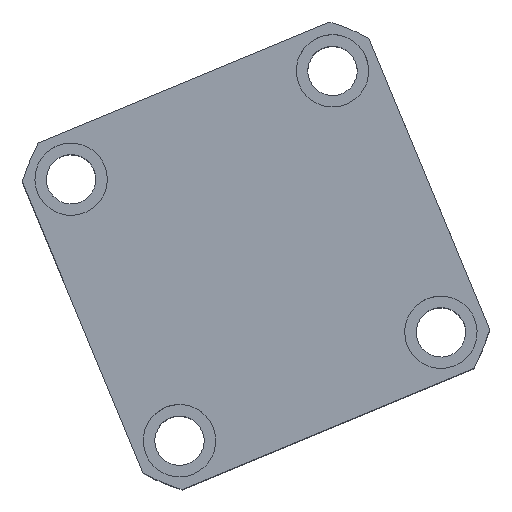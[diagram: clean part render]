
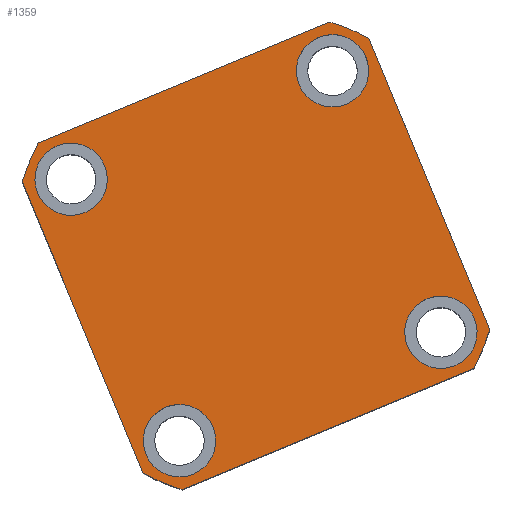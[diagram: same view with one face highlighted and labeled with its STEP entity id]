
A CAD part, top view. The second image highlights one B-rep face of the part: STEP entity #1359.
In plain terms, the highlighted planar face has unit normal (0, 0, 1) as drawn and (0, 0, -1) by its records, which use the part's own axes.
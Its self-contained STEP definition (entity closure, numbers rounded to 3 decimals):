
#66 = EDGE_LOOP ( 'NONE', ( #14308, #10297 ) ) ;
#147 = EDGE_CURVE ( 'NONE', #11695, #14682, #1097, .T. ) ;
#209 = DIRECTION ( 'NONE',  ( 1., 0., 0. ) ) ;
#306 = ORIENTED_EDGE ( 'NONE', *, *, #11816, .F. ) ;
#563 = LINE ( 'NONE', #4039, #9632 ) ;
#617 = CARTESIAN_POINT ( 'NONE',  ( 32., -43., 0. ) ) ;
#931 = VECTOR ( 'NONE', #14035, 1000. ) ;
#948 = CIRCLE ( 'NONE', #7514, 74.5 ) ;
#1097 = CIRCLE ( 'NONE', #1979, 74.5 ) ;
#1124 = CARTESIAN_POINT ( 'NONE',  ( -57., -57., 0. ) ) ;
#1359 = ADVANCED_FACE ( 'NONE', ( #1820, #8116, #10880, #7721, #4633 ), #10993, .F. ) ;
#1417 = ORIENTED_EDGE ( 'NONE', *, *, #1635, .F. ) ;
#1493 = CIRCLE ( 'NONE', #10747, 11. ) ;
#1582 = CARTESIAN_POINT ( 'NONE',  ( 47.971, -57., 0. ) ) ;
#1596 = VERTEX_POINT ( 'NONE', #13472 ) ;
#1635 = EDGE_CURVE ( 'NONE', #10379, #11695, #3517, .T. ) ;
#1701 = CARTESIAN_POINT ( 'NONE',  ( 0., 0., 0. ) ) ;
#1820 = FACE_BOUND ( 'NONE', #8205, .T. ) ;
#1885 = CIRCLE ( 'NONE', #6851, 74.5 ) ;
#1979 = AXIS2_PLACEMENT_3D ( 'NONE', #6146, #6481, #2784 ) ;
#2369 = DIRECTION ( 'NONE',  ( 1., 0., 0. ) ) ;
#2448 = EDGE_CURVE ( 'NONE', #3723, #6921, #3326, .T. ) ;
#2494 = CARTESIAN_POINT ( 'NONE',  ( -32., -43., 0. ) ) ;
#2584 = EDGE_CURVE ( 'NONE', #11939, #13943, #9567, .T. ) ;
#2617 = VERTEX_POINT ( 'NONE', #4231 ) ;
#2772 = CARTESIAN_POINT ( 'NONE',  ( -57., 47.971, 0. ) ) ;
#2784 = DIRECTION ( 'NONE',  ( 1., 0., 0. ) ) ;
#2863 = EDGE_CURVE ( 'NONE', #10423, #10379, #948, .T. ) ;
#2893 = DIRECTION ( 'NONE',  ( 1., 0., 0. ) ) ;
#3182 = DIRECTION ( 'NONE',  ( 0., 0., -1. ) ) ;
#3220 = CARTESIAN_POINT ( 'NONE',  ( 57., 47.971, 0. ) ) ;
#3268 = CARTESIAN_POINT ( 'NONE',  ( 43., -43., 0. ) ) ;
#3326 = CIRCLE ( 'NONE', #3426, 11. ) ;
#3426 = AXIS2_PLACEMENT_3D ( 'NONE', #11212, #11160, #11113 ) ;
#3497 = ORIENTED_EDGE ( 'NONE', *, *, #2584, .F. ) ;
#3517 = LINE ( 'NONE', #13695, #9395 ) ;
#3572 = CIRCLE ( 'NONE', #10812, 11. ) ;
#3681 = ORIENTED_EDGE ( 'NONE', *, *, #12197, .F. ) ;
#3717 = DIRECTION ( 'NONE',  ( 0., 0., -1. ) ) ;
#3723 = VERTEX_POINT ( 'NONE', #13051 ) ;
#4039 = CARTESIAN_POINT ( 'NONE',  ( -57., 57., 0. ) ) ;
#4099 = LINE ( 'NONE', #1124, #931 ) ;
#4116 = EDGE_CURVE ( 'NONE', #14682, #4288, #4099, .T. ) ;
#4231 = CARTESIAN_POINT ( 'NONE',  ( -54., -43., 0. ) ) ;
#4288 = VERTEX_POINT ( 'NONE', #1582 ) ;
#4343 = CARTESIAN_POINT ( 'NONE',  ( 32., 43., 0. ) ) ;
#4449 = DIRECTION ( 'NONE',  ( -1., 0., 0. ) ) ;
#4578 = CARTESIAN_POINT ( 'NONE',  ( 43., 43., 0. ) ) ;
#4616 = DIRECTION ( 'NONE',  ( 0., 1., 0. ) ) ;
#4633 = FACE_OUTER_BOUND ( 'NONE', #11544, .T. ) ;
#4769 = VERTEX_POINT ( 'NONE', #4343 ) ;
#5106 = CARTESIAN_POINT ( 'NONE',  ( 0., 0., 0. ) ) ;
#5112 = VERTEX_POINT ( 'NONE', #5780 ) ;
#5213 = DIRECTION ( 'NONE',  ( -1., 0., 0. ) ) ;
#5263 = CARTESIAN_POINT ( 'NONE',  ( 57., -47.971, 0. ) ) ;
#5312 = EDGE_CURVE ( 'NONE', #4288, #11939, #1885, .T. ) ;
#5397 = DIRECTION ( 'NONE',  ( 0., 0., -1. ) ) ;
#5441 = EDGE_CURVE ( 'NONE', #5495, #5112, #13269, .T. ) ;
#5495 = VERTEX_POINT ( 'NONE', #617 ) ;
#5602 = CARTESIAN_POINT ( 'NONE',  ( -43., -43., 0. ) ) ;
#5614 = CARTESIAN_POINT ( 'NONE',  ( -47.971, -57., 0. ) ) ;
#5746 = DIRECTION ( 'NONE',  ( -1., 0., 0. ) ) ;
#5780 = CARTESIAN_POINT ( 'NONE',  ( 54., -43., 0. ) ) ;
#6059 = ORIENTED_EDGE ( 'NONE', *, *, #7961, .F. ) ;
#6146 = CARTESIAN_POINT ( 'NONE',  ( 0., 0., 0. ) ) ;
#6173 = CARTESIAN_POINT ( 'NONE',  ( 0., 0., 0. ) ) ;
#6291 = CARTESIAN_POINT ( 'NONE',  ( -43., -43., 0. ) ) ;
#6428 = CARTESIAN_POINT ( 'NONE',  ( 0., 0., 0. ) ) ;
#6481 = DIRECTION ( 'NONE',  ( 0., 0., 1. ) ) ;
#6687 = VERTEX_POINT ( 'NONE', #10775 ) ;
#6779 = DIRECTION ( 'NONE',  ( -1., 0., 0. ) ) ;
#6851 = AXIS2_PLACEMENT_3D ( 'NONE', #6173, #14352, #7360 ) ;
#6921 = VERTEX_POINT ( 'NONE', #13696 ) ;
#7037 = CIRCLE ( 'NONE', #11677, 11. ) ;
#7238 = DIRECTION ( 'NONE',  ( 0., 0., 1. ) ) ;
#7360 = DIRECTION ( 'NONE',  ( 1., 0., 0. ) ) ;
#7484 = DIRECTION ( 'NONE',  ( -1., 0., 0. ) ) ;
#7514 = AXIS2_PLACEMENT_3D ( 'NONE', #6428, #7991, #2369 ) ;
#7670 = AXIS2_PLACEMENT_3D ( 'NONE', #10769, #3717, #11937 ) ;
#7701 = CARTESIAN_POINT ( 'NONE',  ( 57., 57., 0. ) ) ;
#7721 = FACE_BOUND ( 'NONE', #14503, .T. ) ;
#7961 = EDGE_CURVE ( 'NONE', #1596, #4769, #12374, .T. ) ;
#7991 = DIRECTION ( 'NONE',  ( 0., 0., 1. ) ) ;
#8081 = ORIENTED_EDGE ( 'NONE', *, *, #147, .F. ) ;
#8116 = FACE_BOUND ( 'NONE', #66, .T. ) ;
#8205 = EDGE_LOOP ( 'NONE', ( #9926, #15043 ) ) ;
#8271 = ORIENTED_EDGE ( 'NONE', *, *, #4116, .F. ) ;
#8324 = CIRCLE ( 'NONE', #14331, 11. ) ;
#8589 = EDGE_CURVE ( 'NONE', #5112, #5495, #3572, .T. ) ;
#8702 = AXIS2_PLACEMENT_3D ( 'NONE', #4578, #12785, #5746 ) ;
#9395 = VECTOR ( 'NONE', #13957, 1000. ) ;
#9567 = LINE ( 'NONE', #7701, #11968 ) ;
#9632 = VECTOR ( 'NONE', #5213, 1000. ) ;
#9764 = EDGE_CURVE ( 'NONE', #6921, #3723, #1493, .T. ) ;
#9831 = CARTESIAN_POINT ( 'NONE',  ( -47.971, 57., 0. ) ) ;
#9926 = ORIENTED_EDGE ( 'NONE', *, *, #15036, .F. ) ;
#9944 = DIRECTION ( 'NONE',  ( 0., 0., 1. ) ) ;
#9988 = CIRCLE ( 'NONE', #12708, 74.5 ) ;
#10079 = ORIENTED_EDGE ( 'NONE', *, *, #2863, .F. ) ;
#10218 = CARTESIAN_POINT ( 'NONE',  ( -43., 43., 0. ) ) ;
#10240 = EDGE_CURVE ( 'NONE', #13030, #2617, #8324, .T. ) ;
#10297 = ORIENTED_EDGE ( 'NONE', *, *, #8589, .F. ) ;
#10298 = AXIS2_PLACEMENT_3D ( 'NONE', #5106, #7238, #209 ) ;
#10379 = VERTEX_POINT ( 'NONE', #2772 ) ;
#10423 = VERTEX_POINT ( 'NONE', #9831 ) ;
#10747 = AXIS2_PLACEMENT_3D ( 'NONE', #10218, #3182, #11419 ) ;
#10769 = CARTESIAN_POINT ( 'NONE',  ( 43., 43., 0. ) ) ;
#10775 = CARTESIAN_POINT ( 'NONE',  ( 47.971, 57., 0. ) ) ;
#10812 = AXIS2_PLACEMENT_3D ( 'NONE', #3268, #11502, #4449 ) ;
#10880 = FACE_BOUND ( 'NONE', #11874, .T. ) ;
#10993 = PLANE ( 'NONE',  #10298 ) ;
#11001 = CARTESIAN_POINT ( 'NONE',  ( -57., -47.971, 0. ) ) ;
#11113 = DIRECTION ( 'NONE',  ( -1., 0., 0. ) ) ;
#11160 = DIRECTION ( 'NONE',  ( 0., 0., -1. ) ) ;
#11212 = CARTESIAN_POINT ( 'NONE',  ( -43., 43., 0. ) ) ;
#11419 = DIRECTION ( 'NONE',  ( -1., 0., 0. ) ) ;
#11502 = DIRECTION ( 'NONE',  ( 0., 0., -1. ) ) ;
#11544 = EDGE_LOOP ( 'NONE', ( #13187, #3497, #11783, #8271, #8081, #1417, #10079, #306 ) ) ;
#11677 = AXIS2_PLACEMENT_3D ( 'NONE', #5602, #13790, #6779 ) ;
#11695 = VERTEX_POINT ( 'NONE', #11001 ) ;
#11783 = ORIENTED_EDGE ( 'NONE', *, *, #5312, .F. ) ;
#11816 = EDGE_CURVE ( 'NONE', #6687, #10423, #563, .T. ) ;
#11827 = EDGE_CURVE ( 'NONE', #13943, #6687, #9988, .T. ) ;
#11874 = EDGE_LOOP ( 'NONE', ( #3681, #6059 ) ) ;
#11937 = DIRECTION ( 'NONE',  ( -1., 0., 0. ) ) ;
#11939 = VERTEX_POINT ( 'NONE', #5263 ) ;
#11968 = VECTOR ( 'NONE', #4616, 1000. ) ;
#12197 = EDGE_CURVE ( 'NONE', #4769, #1596, #14017, .T. ) ;
#12343 = AXIS2_PLACEMENT_3D ( 'NONE', #12434, #5397, #13585 ) ;
#12374 = CIRCLE ( 'NONE', #8702, 11. ) ;
#12434 = CARTESIAN_POINT ( 'NONE',  ( 43., -43., 0. ) ) ;
#12708 = AXIS2_PLACEMENT_3D ( 'NONE', #1701, #9944, #2893 ) ;
#12785 = DIRECTION ( 'NONE',  ( 0., 0., -1. ) ) ;
#13030 = VERTEX_POINT ( 'NONE', #2494 ) ;
#13051 = CARTESIAN_POINT ( 'NONE',  ( -32., 43., 0. ) ) ;
#13187 = ORIENTED_EDGE ( 'NONE', *, *, #11827, .F. ) ;
#13269 = CIRCLE ( 'NONE', #12343, 11. ) ;
#13472 = CARTESIAN_POINT ( 'NONE',  ( 54., 43., 0. ) ) ;
#13585 = DIRECTION ( 'NONE',  ( -1., 0., 0. ) ) ;
#13695 = CARTESIAN_POINT ( 'NONE',  ( -57., 57., 0. ) ) ;
#13696 = CARTESIAN_POINT ( 'NONE',  ( -54., 43., 0. ) ) ;
#13790 = DIRECTION ( 'NONE',  ( 0., 0., -1. ) ) ;
#13941 = ORIENTED_EDGE ( 'NONE', *, *, #2448, .F. ) ;
#13943 = VERTEX_POINT ( 'NONE', #3220 ) ;
#13957 = DIRECTION ( 'NONE',  ( 0., -1., 0. ) ) ;
#14017 = CIRCLE ( 'NONE', #7670, 11. ) ;
#14035 = DIRECTION ( 'NONE',  ( 1., 0., 0. ) ) ;
#14308 = ORIENTED_EDGE ( 'NONE', *, *, #5441, .F. ) ;
#14331 = AXIS2_PLACEMENT_3D ( 'NONE', #6291, #14473, #7484 ) ;
#14352 = DIRECTION ( 'NONE',  ( 0., 0., 1. ) ) ;
#14473 = DIRECTION ( 'NONE',  ( 0., 0., -1. ) ) ;
#14503 = EDGE_LOOP ( 'NONE', ( #14642, #13941 ) ) ;
#14642 = ORIENTED_EDGE ( 'NONE', *, *, #9764, .F. ) ;
#14682 = VERTEX_POINT ( 'NONE', #5614 ) ;
#15036 = EDGE_CURVE ( 'NONE', #2617, #13030, #7037, .T. ) ;
#15043 = ORIENTED_EDGE ( 'NONE', *, *, #10240, .F. ) ;
